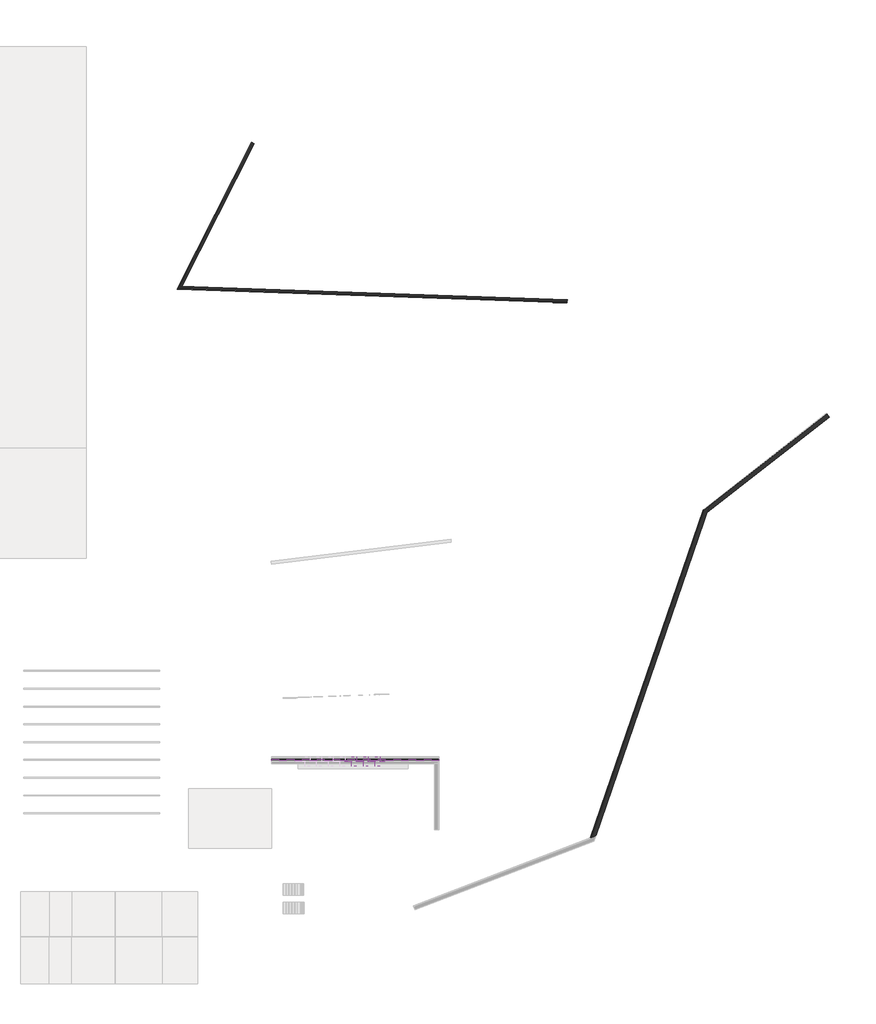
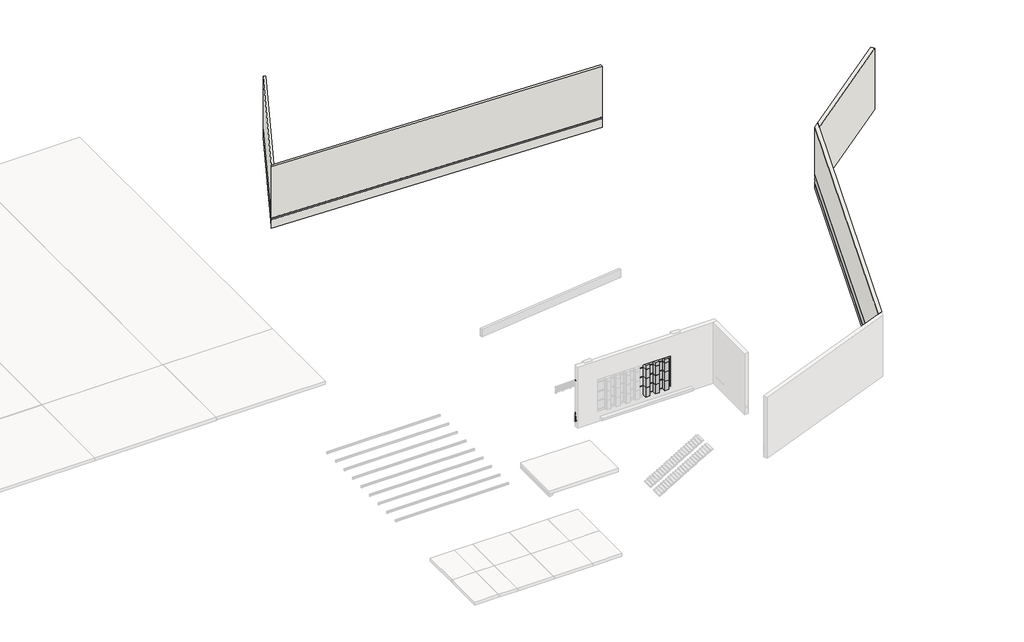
# One storey, part 2 of 3: 35 members, 12 plates, 5 proxies, 4 walls.
"""IFC4 building model written with IfcOpenShell, lengths in millimetres."""

from ifc_helpers import new_model, si_unit, frame, origin, place, context, project, spatial, polyline, circle_curve, ellipse_curve, outline, extrude, transform, mapped, element, save
from ifc_brep_helpers import plane_surface, cylinder_surface, revolved_surface, advanced_brep
from components import member_019d2a25, member_3923b022, member_2a5ef969, member_fb87e798, member_45079aa6, member_bad90bd3, member_1564d5d8, member_734f76e6, plate_2f013cb5, plate_5b721687, plate_4c5048e9, plate_a3cc9f68, plate_1d454050, plate_08f496c8

model = new_model("IFC4")

# Units and contexts
model_context = context("Model", 3, world=origin())
ifc_project = project(units=[si_unit("LENGTHUNIT", "METRE", prefix="MILLI")], contexts=[model_context])

# Site, building, storey
site = spatial("IfcSite", under=ifc_project)
building = spatial("IfcBuilding", under=site)
storey = spatial("IfcBuildingStorey", under=building, Name="Уровень 1", Elevation=0.0)

# Proxies
placement = place(None, origin())
element("IfcBuildingElementProxy", 1, Name="Врезанный профиль", ObjectType="Врезанный профиль", at=placement, inside=storey, context=model_context, shape_type="SweptSolid", body=[
    extrude(outline(polyline([(-22062.5352251, 8542.2601583), (-22062.5352251, 8694.6601583), (-4832.5352251, 8694.6601583), (-4832.5352251, 8542.2601583), (-22062.5352251, 8542.2601583)])), frame((0.0, 0.0, 5900.0), z_axis=(0.0, 0.0, 1.0), x_axis=(1.0, 0.0, 0.0)), (0.0, 0.0, 1.0), 152.4),
])
element("IfcBuildingElementProxy", 2, Name="Reveals", at=placement, inside=storey, context=model_context, shape_type="AdvancedBrep", body=[
    advanced_brep(
    [(-22062.5352251, 8635.4936017, 1673.1169098), (-22062.5352251, 8694.6601583, 1800.0), (-22062.5352251, 8694.6601583, 600.0), (-22062.5352251, 8641.4373413, 751.8422279), (-22062.5352251, 8670.6636925, 959.7985223), (-22062.5352251, 8631.6103411, 1200.0), (-22062.5352251, 8669.0747224, 1466.5729246), (-4891.7017818, 8635.4936017, 1673.1169098), (-4858.120661, 8669.0747224, 1466.5729246), (-4895.5850423, 8631.6103411, 1200.0), (-4856.5316909, 8670.6636925, 959.7985223), (-4885.7580421, 8641.4373413, 751.8422279), (-4832.5352251, 8694.6601583, 600.0), (-4832.5352251, 8694.6601583, 1800.0)],
    [
        (0, 1),
        (1, 2),
        (2, 3, circle_curve(frame((-22062.5352251, 8783.5560861, 716.4080451), z_axis=(-1.0, 0.0, 0.0), x_axis=(0.0, 1.0, 0.0)), 146.4695154)),
        (3, 4),
        (4, 5),
        (5, 6),
        (6, 0),
        (7, 8),
        (8, 9),
        (9, 10),
        (10, 11),
        (11, 12, ellipse_curve(frame((-4743.6392974, 8783.5560861, 716.4080451), z_axis=(0.7071067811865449, -0.7071067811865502, 0.0), x_axis=(-0.70710678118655, -0.707106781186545, 0.0)), 207.1391751, 146.4695154)),
        (12, 13),
        (13, 7),
        (0, 7),
        (13, 1),
        (12, 2),
        (11, 3),
        (10, 4),
        (9, 5),
        (8, 6),
    ],
    [
        plane_surface(frame((-22062.5352251, 8694.6601583, 600.0), z_axis=(-1.0, 0.0, 0.0), x_axis=(0.0, 1.0, 0.0))),
        plane_surface(frame((-4832.5352251, 8694.6601583, 1504.8), z_axis=(0.7071067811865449, -0.7071067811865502, 0.0), x_axis=(-0.7071067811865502, -0.7071067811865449, 0.0))),
        plane_surface(frame((-22062.5352251, 8635.4936017, 1673.1169098), z_axis=(0.0, -0.9063077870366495, 0.42261826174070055), x_axis=(1.0, 0.0, 0.0))),
        plane_surface(frame((-22062.5352251, 8694.6601583, 1800.0), z_axis=(0.0, 1.0, 0.0), x_axis=(1.0, 0.0, 0.0))),
        cylinder_surface(frame((-22062.5352251, 8783.5560861, 716.4080451), z_axis=(-1.0, 0.0, 0.0), x_axis=(0.0, 1.0, 0.0)), 146.4695154),
        plane_surface(frame((-22062.5352251, 8641.4373413, 751.8422279), z_axis=(0.0, -0.9902680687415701, 0.13917310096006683), x_axis=(1.0, 0.0, 0.0))),
        plane_surface(frame((-22062.5352251, 8670.6636925, 959.7985223), z_axis=(0.0, -0.9870393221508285, -0.16047858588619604), x_axis=(1.0, 0.0, 0.0))),
        plane_surface(frame((-22062.5352251, 8631.6103411, 1200.0), z_axis=(0.0, -0.9902680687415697, 0.13917310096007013), x_axis=(1.0, 0.0, 0.0))),
        plane_surface(frame((-22062.5352251, 8669.0747224, 1466.5729246), z_axis=(0.0, -0.987039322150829, -0.16047858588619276), x_axis=(1.0, 0.0, 0.0))),
    ],
    [
        (0, [[1, 2, 3, 4, 5, 6, 7]]),
        (1, [[8, 9, 10, 11, 12, 13, 14]]),
        (2, [[-1, 15, -14, 16]]),
        (3, [[-2, -16, -13, 17]]),
        (4, [[-3, -17, -12, 18]]),
        (5, [[-4, -18, -11, 19]]),
        (6, [[-5, -19, -10, 20]]),
        (7, [[-6, -20, -9, 21]]),
        (8, [[-7, -21, -8, -15]]),
    ],
),
])
element("IfcBuildingElementProxy", 3, Name="Reveals", at=placement, inside=storey, context=model_context, shape_type="AdvancedBrep", body=[
    advanced_brep(
    [(10784.2530434, 584.4953374, 1673.1169098), (10737.2923313, 629.8447699, 1800.0), (10737.2923313, 629.8447699, 600.0), (10779.5354755, 589.0510397, 751.8422279), (10756.3384139, 611.4521818, 959.7985223), (10787.3352015, 581.518932, 1200.0), (10757.5995852, 610.2342828, 1466.5729246), (22397.5758724, 34312.0338235, 1673.1169098), (22369.0627844, 34332.3720116, 1466.5729246), (22400.8730748, 34309.6819519, 1200.0), (22367.7136203, 34333.334361, 959.7985223), (22392.5291567, 34315.6336109, 751.8422279), (22347.3386796, 34347.8676649, 600.0), (22347.3386796, 34347.8676649, 1800.0)],
    [
        (0, 1),
        (1, 2),
        (2, 3, ellipse_curve(frame((10666.7353088, 697.9808946, 716.4080451), z_axis=(-0.6946583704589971, -0.7193398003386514, 0.0), x_axis=(0.7193398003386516, -0.6946583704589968, 0.0)), 161.611229, 146.4695154)),
        (3, 4),
        (4, 5),
        (5, 6),
        (6, 0),
        (7, 8),
        (8, 9),
        (9, 10),
        (10, 11),
        (11, 12, ellipse_curve(frame((22271.8588457, 34401.7069072, 716.4080451), z_axis=(0.5807029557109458, 0.8141155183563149, 0.0), x_axis=(0.8141155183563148, -0.5807029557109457, 0.0)), 152.7602218, 146.4695154)),
        (12, 13),
        (13, 7),
        (0, 7),
        (13, 1),
        (12, 2),
        (11, 3),
        (10, 4),
        (9, 5),
        (8, 6),
    ],
    [
        plane_surface(frame((10737.2923313, 629.8447699, 895.2), z_axis=(-0.6946583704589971, -0.7193398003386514, 0.0), x_axis=(-0.7193398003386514, 0.6946583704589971, 0.0))),
        plane_surface(frame((22347.3386796, 34347.8676649, 1504.8), z_axis=(0.5807029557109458, 0.8141155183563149, 0.0), x_axis=(0.8141155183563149, -0.5807029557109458, 0.0))),
        plane_surface(frame((10784.2530434, 584.4953374, 1673.1169098), z_axis=(0.8569308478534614, -0.29506495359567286, 0.42261826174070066), x_axis=(0.32556815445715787, 0.9455185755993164, 0.0))),
        plane_surface(frame((10737.2923313, 629.8447699, 1800.0), z_axis=(-0.9455185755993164, 0.32556815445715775, 0.0), x_axis=(0.32556815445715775, 0.9455185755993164, 0.0))),
        cylinder_surface(frame((10653.2395803, 658.7864531, 716.4080451), z_axis=(-0.3255681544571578, -0.9455185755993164, 0.0), x_axis=(-0.9455185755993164, 0.3255681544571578, 0.0)), 146.4695154),
        plane_surface(frame((10779.5354755, 589.0510397, 751.8422279), z_axis=(0.9363168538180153, -0.3223997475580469, 0.1391731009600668), x_axis=(0.3255681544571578, 0.9455185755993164, 0.0))),
        plane_surface(frame((10756.3384139, 611.4521818, 959.7985223), z_axis=(0.9332640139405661, -0.3213485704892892, -0.16047858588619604), x_axis=(0.32556815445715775, 0.9455185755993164, 0.0))),
        plane_surface(frame((10787.3352015, 581.518932, 1200.0), z_axis=(0.9363168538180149, -0.3223997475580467, 0.13917310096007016), x_axis=(0.32556815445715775, 0.9455185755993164, 0.0))),
        plane_surface(frame((10757.5995852, 610.2342828, 1466.5729246), z_axis=(0.9332640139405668, -0.3213485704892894, -0.16047858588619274), x_axis=(0.32556815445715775, 0.9455185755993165, 0.0))),
    ],
    [
        (0, [[1, 2, 3, 4, 5, 6, 7]]),
        (1, [[8, 9, 10, 11, 12, 13, 14]]),
        (2, [[-1, 15, -14, 16]]),
        (3, [[-2, -16, -13, 17]]),
        (4, [[-3, -17, -12, 18]]),
        (5, [[-4, -18, -11, 19]]),
        (6, [[-5, -19, -10, 20]]),
        (7, [[-6, -20, -9, 21]]),
        (8, [[-7, -21, -8, -15]]),
    ],
),
])
element("IfcBuildingElementProxy", 4, Name="Reveals", at=placement, inside=storey, context=model_context, shape_type="AdvancedBrep", body=[
    advanced_brep(
    [(8334.5309053, 55605.4786116, 1080.0), (8334.5309053, 55605.4786116, 1300.0), (-31782.3330305, 57006.3903699, 1080.0), (-31782.3330305, 57006.3903699, 1300.0)],
    [
        (0, 1, circle_curve(frame((8334.5309053, 55605.4786116, 1190.0), z_axis=(0.9993908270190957, -0.03489949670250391, 0.0), x_axis=(0.03489949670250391, 0.9993908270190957, 0.0)), 110.0)),
        (1, 0),
        (2, 3),
        (3, 2, ellipse_curve(frame((-31782.3330305, 57006.3903699, 1190.0), z_axis=(-0.5075383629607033, 0.8616291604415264, 0.0), x_axis=(0.8616291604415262, 0.5075383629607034, 0.0)), 204.7274896, 110.0)),
        (0, 2),
        (3, 1),
    ],
    [
        plane_surface(frame((8334.5309053, 55605.4786116, 1320.0), z_axis=(0.9993908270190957, -0.03489949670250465, 0.0), x_axis=(0.03489949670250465, 0.9993908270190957, 0.0))),
        plane_surface(frame((-31782.3330305, 57006.3903699, 1504.8), z_axis=(-0.5075383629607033, 0.8616291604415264, 0.0), x_axis=(0.8616291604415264, 0.5075383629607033, 0.0))),
        cylinder_surface(frame((8334.5309053, 55605.4786116, 1190.0), z_axis=(0.9993908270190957, -0.03489949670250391, 0.0), x_axis=(0.03489949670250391, 0.9993908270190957, 0.0)), 110.0),
        plane_surface(frame((8334.5309053, 55605.4786116, 1300.0), z_axis=(-0.034899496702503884, -0.9993908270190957, 0.0), x_axis=(-0.9993908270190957, 0.034899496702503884, 0.0))),
    ],
    [
        (0, [[1, 2]]),
        (1, [[3, 4]]),
        (2, [[-1, 5, -4, 6]]),
        (3, [[-2, -6, -3, -5]]),
    ],
),
])
element("IfcBuildingElementProxy", 5, Name="Reveals", at=placement, inside=storey, context=model_context, shape_type="AdvancedBrep", body=[
    advanced_brep(
    [(-31782.3330305, 57006.3903699, 1080.0), (-31782.3330305, 57006.3903699, 1300.0), (-24093.7983339, 72095.9893373, 1080.0), (-24093.7983339, 72095.9893373, 1300.0)],
    [
        (0, 1, ellipse_curve(frame((-31782.3330305, 57006.3903699, 1190.0), z_axis=(0.5075383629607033, -0.8616291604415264, 0.0), x_axis=(-0.8616291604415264, -0.5075383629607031, 0.0)), 204.7274896, 110.0)),
        (1, 0),
        (2, 3),
        (3, 2, circle_curve(frame((-24093.7983339, 72095.9893373, 1190.0), z_axis=(0.4539904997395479, 0.8910065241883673, 0.0), x_axis=(0.8910065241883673, -0.4539904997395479, 0.0)), 110.0)),
        (0, 2),
        (3, 1),
    ],
    [
        plane_surface(frame((-31782.3330305, 57006.3903699, 1504.8), z_axis=(0.5075383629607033, -0.8616291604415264, 0.0), x_axis=(0.8616291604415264, 0.5075383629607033, 0.0))),
        plane_surface(frame((-24093.7983339, 72095.9893373, 1320.0), z_axis=(0.4539904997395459, 0.8910065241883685, 0.0), x_axis=(0.8910065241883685, -0.4539904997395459, 0.0))),
        cylinder_surface(frame((-31782.3330305, 57006.3903699, 1190.0), z_axis=(-0.4539904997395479, -0.8910065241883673, 0.0), x_axis=(0.8910065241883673, -0.4539904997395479, 0.0)), 110.0),
        plane_surface(frame((-31782.3330305, 57006.3903699, 1300.0), z_axis=(-0.8910065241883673, 0.4539904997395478, 0.0), x_axis=(0.4539904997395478, 0.8910065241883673, 0.0))),
    ],
    [
        (0, [[1, 2]]),
        (1, [[3, 4]]),
        (2, [[-1, 5, -4, 6]]),
        (3, [[-2, -6, -3, -5]]),
    ],
),
])

# Members
member_shape = member_019d2a25(model_context)
element("IfcMember", 6, ObjectType="Прямоугольный импост : 50 мм x 65 мм", at=placement, inside=storey, context=model_context, shape_type="MappedRepresentation", body=[
    mapped(member_shape, transform((-10462.5352251, 8464.6601583, 1341.6457957), x_axis=(1.0, 0.0, 0.0), y_axis=(0.0, -1.0, 0.0), z_axis=(0.0, 0.0, -1.0))),
])
element("IfcMember", 7, ObjectType="Прямоугольный импост : 50 мм x 65 мм", at=placement, inside=storey, context=model_context, shape_type="MappedRepresentation", body=[
    mapped(member_shape, transform((-10462.5352251, 8464.6601583, 2541.6457957), x_axis=(1.0, 0.0, 0.0), y_axis=(0.0, -1.0, 0.0), z_axis=(0.0, 0.0, -1.0))),
])
element("IfcMember", 8, ObjectType="Прямоугольный импост : 50 мм x 65 мм", at=placement, inside=storey, context=model_context, shape_type="MappedRepresentation", body=[
    mapped(member_shape, transform((-10462.5352251, 8464.6601583, 3741.6457957), x_axis=(1.0, 0.0, 0.0), y_axis=(0.0, -1.0, 0.0), z_axis=(0.0, 0.0, -1.0))),
])
member_2_shape = member_3923b022(model_context)
element("IfcMember", 9, ObjectType="Прямоугольный импост : 50 мм x 65 мм", at=placement, inside=storey, context=model_context, shape_type="MappedRepresentation", body=[
    mapped(member_2_shape, transform((-10462.5352251, 8464.6601583, 4941.6457957), x_axis=(1.0, 0.0, 0.0), y_axis=(0.0, -1.0, 0.0), z_axis=(0.0, 0.0, -1.0))),
])
member_3_shape = member_2a5ef969(model_context)
element("IfcMember", 10, ObjectType="Импост круглого сечения : Радиус 25 мм 2", at=placement, inside=storey, context=model_context, shape_type="MappedRepresentation", body=[
    mapped(member_3_shape, transform((-13562.5352248, 8464.6601583, 1341.6457957), x_axis=(1.0, 0.0, 0.0), y_axis=(0.0, -1.0, 0.0), z_axis=(0.0, 0.0, -1.0))),
])
element("IfcMember", 11, ObjectType="Импост круглого сечения : Радиус 25 мм 2", at=placement, inside=storey, context=model_context, shape_type="MappedRepresentation", body=[
    mapped(member_3_shape, transform((-12362.5352248, 8464.6601583, 1341.6457957), x_axis=(1.0, 0.0, 0.0), y_axis=(0.0, -1.0, 0.0), z_axis=(0.0, 0.0, -1.0))),
])
element("IfcMember", 12, ObjectType="Импост круглого сечения : Радиус 25 мм 2", at=placement, inside=storey, context=model_context, shape_type="MappedRepresentation", body=[
    mapped(member_3_shape, transform((-11162.5352248, 8464.6601583, 1341.6457957), x_axis=(1.0, 0.0, 0.0), y_axis=(0.0, -1.0, 0.0), z_axis=(0.0, 0.0, -1.0))),
])
element("IfcMember", 13, ObjectType="Импост круглого сечения : Радиус 25 мм 2", at=placement, inside=storey, context=model_context, shape_type="MappedRepresentation", body=[
    mapped(member_3_shape, transform((-13562.5352248, 8464.6601583, 2541.6457957), x_axis=(1.0, 0.0, 0.0), y_axis=(0.0, -1.0, 0.0), z_axis=(0.0, 0.0, -1.0))),
])
element("IfcMember", 14, ObjectType="Импост круглого сечения : Радиус 25 мм 2", at=placement, inside=storey, context=model_context, shape_type="MappedRepresentation", body=[
    mapped(member_3_shape, transform((-12362.5352248, 8464.6601583, 2541.6457957), x_axis=(1.0, 0.0, 0.0), y_axis=(0.0, -1.0, 0.0), z_axis=(0.0, 0.0, -1.0))),
])
element("IfcMember", 15, ObjectType="Импост круглого сечения : Радиус 25 мм 2", at=placement, inside=storey, context=model_context, shape_type="MappedRepresentation", body=[
    mapped(member_3_shape, transform((-11162.5352248, 8464.6601583, 2541.6457957), x_axis=(1.0, 0.0, 0.0), y_axis=(0.0, -1.0, 0.0), z_axis=(0.0, 0.0, -1.0))),
])
element("IfcMember", 16, ObjectType="Импост круглого сечения : Радиус 25 мм 2", at=placement, inside=storey, context=model_context, shape_type="MappedRepresentation", body=[
    mapped(member_3_shape, transform((-13562.5352248, 8464.6601583, 3741.6457957), x_axis=(1.0, 0.0, 0.0), y_axis=(0.0, -1.0, 0.0), z_axis=(0.0, 0.0, -1.0))),
])
element("IfcMember", 17, ObjectType="Импост круглого сечения : Радиус 25 мм 2", at=placement, inside=storey, context=model_context, shape_type="MappedRepresentation", body=[
    mapped(member_3_shape, transform((-12362.5352248, 8464.6601583, 3741.6457957), x_axis=(1.0, 0.0, 0.0), y_axis=(0.0, -1.0, 0.0), z_axis=(0.0, 0.0, -1.0))),
])
element("IfcMember", 18, ObjectType="Импост круглого сечения : Радиус 25 мм 2", at=placement, inside=storey, context=model_context, shape_type="MappedRepresentation", body=[
    mapped(member_3_shape, transform((-11162.5352248, 8464.6601583, 3741.6457957), x_axis=(1.0, 0.0, 0.0), y_axis=(0.0, -1.0, 0.0), z_axis=(0.0, 0.0, -1.0))),
])
member_4_shape = member_fb87e798(model_context)
element("IfcMember", 19, ObjectType="Импост круглого сечения : Радиус 25 мм 2", at=placement, inside=storey, context=model_context, shape_type="MappedRepresentation", body=[
    mapped(member_4_shape, transform((-13562.5352248, 8464.6601583, 4941.6457957), x_axis=(1.0, 0.0, 0.0), y_axis=(0.0, -1.0, 0.0), z_axis=(0.0, 0.0, -1.0))),
])
element("IfcMember", 20, ObjectType="Импост круглого сечения : Радиус 25 мм 2", at=placement, inside=storey, context=model_context, shape_type="MappedRepresentation", body=[
    mapped(member_4_shape, transform((-12362.5352248, 8464.6601583, 4941.6457957), x_axis=(1.0, 0.0, 0.0), y_axis=(0.0, -1.0, 0.0), z_axis=(0.0, 0.0, -1.0))),
])
element("IfcMember", 21, ObjectType="Импост круглого сечения : Радиус 25 мм 2", at=placement, inside=storey, context=model_context, shape_type="MappedRepresentation", body=[
    mapped(member_4_shape, transform((-11162.5352248, 8464.6601583, 4941.6457957), x_axis=(1.0, 0.0, 0.0), y_axis=(0.0, -1.0, 0.0), z_axis=(0.0, 0.0, -1.0))),
])
member_5_shape = member_45079aa6(model_context)
element("IfcMember", 22, ObjectType="Импост круглого сечения : Радиус 25 мм", at=placement, inside=storey, context=model_context, shape_type="MappedRepresentation", body=[
    mapped(member_5_shape, transform((-10512.5352251, 8464.6601583, 5429.8819034), x_axis=(0.0, 0.0, 1.0), y_axis=(0.0, -1.0, 0.0), z_axis=(1.0, 0.0, 0.0))),
])
member_6_shape = member_bad90bd3(model_context)
element("IfcMember", 23, ObjectType="Импост круглого сечения : Радиус 25 мм", at=placement, inside=storey, context=model_context, shape_type="MappedRepresentation", body=[
    mapped(member_6_shape, transform((-13812.5352248, 8464.6601583, 5429.8819034), x_axis=(0.0, 0.0, 1.0), y_axis=(0.0, -1.0, 0.0), z_axis=(1.0, 0.0, 0.0))),
])
element("IfcMember", 24, ObjectType="Импост круглого сечения : Радиус 25 мм", at=placement, inside=storey, context=model_context, shape_type="MappedRepresentation", body=[
    mapped(member_6_shape, transform((-12612.5352248, 8464.6601583, 5429.8819034), x_axis=(0.0, 0.0, 1.0), y_axis=(0.0, -1.0, 0.0), z_axis=(1.0, 0.0, 0.0))),
])
element("IfcMember", 25, ObjectType="Импост круглого сечения : Радиус 25 мм", at=placement, inside=storey, context=model_context, shape_type="MappedRepresentation", body=[
    mapped(member_6_shape, transform((-11412.5352248, 8464.6601583, 5429.8819034), x_axis=(0.0, 0.0, 1.0), y_axis=(0.0, -1.0, 0.0), z_axis=(1.0, 0.0, 0.0))),
])
element("IfcMember", 26, ObjectType="Импост круглого сечения : Радиус 25 мм", at=placement, inside=storey, context=model_context, shape_type="MappedRepresentation", body=[
    mapped(member_6_shape, transform((-13312.5352248, 8464.6601583, 1341.6457957), x_axis=(0.0, 0.0, -1.0), y_axis=(0.0, -1.0, 0.0), z_axis=(-1.0, 0.0, 0.0))),
])
element("IfcMember", 27, ObjectType="Импост круглого сечения : Радиус 25 мм", at=placement, inside=storey, context=model_context, shape_type="MappedRepresentation", body=[
    mapped(member_6_shape, transform((-12112.5352248, 8464.6601583, 1341.6457957), x_axis=(0.0, 0.0, -1.0), y_axis=(0.0, -1.0, 0.0), z_axis=(-1.0, 0.0, 0.0))),
])
element("IfcMember", 28, ObjectType="Импост круглого сечения : Радиус 25 мм", at=placement, inside=storey, context=model_context, shape_type="MappedRepresentation", body=[
    mapped(member_5_shape, transform((-10912.5352248, 8464.6601583, 1341.6457957), x_axis=(0.0, 0.0, -1.0), y_axis=(0.0, -1.0, 0.0), z_axis=(-1.0, 0.0, 0.0))),
])
member_7_shape = member_1564d5d8(model_context)
element("IfcMember", 29, ObjectType="Прямоугольный импост : 50 мм x 65 мм", at=placement, inside=storey, context=model_context, shape_type="MappedRepresentation", body=[
    mapped(member_7_shape, transform((-13812.5352248, 8464.6601583, 2541.6457957), x_axis=(0.0, 0.0, 1.0), y_axis=(0.0, -1.0, 0.0), z_axis=(1.0, 0.0, 0.0))),
])
element("IfcMember", 30, ObjectType="Прямоугольный импост : 50 мм x 65 мм", at=placement, inside=storey, context=model_context, shape_type="MappedRepresentation", body=[
    mapped(member_7_shape, transform((-12612.5352248, 8464.6601583, 2541.6457957), x_axis=(0.0, 0.0, 1.0), y_axis=(0.0, -1.0, 0.0), z_axis=(1.0, 0.0, 0.0))),
])
element("IfcMember", 31, ObjectType="Прямоугольный импост : 50 мм x 65 мм", at=placement, inside=storey, context=model_context, shape_type="MappedRepresentation", body=[
    mapped(member_7_shape, transform((-11412.5352248, 8464.6601583, 2541.6457957), x_axis=(0.0, 0.0, 1.0), y_axis=(0.0, -1.0, 0.0), z_axis=(1.0, 0.0, 0.0))),
])
element("IfcMember", 32, ObjectType="Прямоугольный импост : 50 мм x 65 мм", at=placement, inside=storey, context=model_context, shape_type="MappedRepresentation", body=[
    mapped(member_7_shape, transform((-13812.5352248, 8464.6601583, 3741.6457957), x_axis=(0.0, 0.0, 1.0), y_axis=(0.0, -1.0, 0.0), z_axis=(1.0, 0.0, 0.0))),
])
element("IfcMember", 33, ObjectType="Прямоугольный импост : 50 мм x 65 мм", at=placement, inside=storey, context=model_context, shape_type="MappedRepresentation", body=[
    mapped(member_7_shape, transform((-12612.5352248, 8464.6601583, 3741.6457957), x_axis=(0.0, 0.0, 1.0), y_axis=(0.0, -1.0, 0.0), z_axis=(1.0, 0.0, 0.0))),
])
element("IfcMember", 34, ObjectType="Прямоугольный импост : 50 мм x 65 мм", at=placement, inside=storey, context=model_context, shape_type="MappedRepresentation", body=[
    mapped(member_7_shape, transform((-11412.5352248, 8464.6601583, 3741.6457957), x_axis=(0.0, 0.0, 1.0), y_axis=(0.0, -1.0, 0.0), z_axis=(1.0, 0.0, 0.0))),
])
element("IfcMember", 35, ObjectType="Прямоугольный импост : 50 мм x 65 мм", at=placement, inside=storey, context=model_context, shape_type="MappedRepresentation", body=[
    mapped(member_7_shape, transform((-13812.5352248, 8464.6601583, 4941.6457957), x_axis=(0.0, 0.0, 1.0), y_axis=(0.0, -1.0, 0.0), z_axis=(1.0, 0.0, 0.0))),
])
element("IfcMember", 36, ObjectType="Прямоугольный импост : 50 мм x 65 мм", at=placement, inside=storey, context=model_context, shape_type="MappedRepresentation", body=[
    mapped(member_7_shape, transform((-12612.5352248, 8464.6601583, 4941.6457957), x_axis=(0.0, 0.0, 1.0), y_axis=(0.0, -1.0, 0.0), z_axis=(1.0, 0.0, 0.0))),
])
element("IfcMember", 37, ObjectType="Прямоугольный импост : 50 мм x 65 мм", at=placement, inside=storey, context=model_context, shape_type="MappedRepresentation", body=[
    mapped(member_7_shape, transform((-11412.5352248, 8464.6601583, 4941.6457957), x_axis=(0.0, 0.0, 1.0), y_axis=(0.0, -1.0, 0.0), z_axis=(1.0, 0.0, 0.0))),
])
member_8_shape = member_734f76e6(model_context)
element("IfcMember", 38, ObjectType="Прямоугольный импост : 50 мм x 65 мм", at=placement, inside=storey, context=model_context, shape_type="MappedRepresentation", body=[
    mapped(member_8_shape, transform((-10512.5352251, 8464.6601583, 2541.6457957), x_axis=(0.0, 0.0, 1.0), y_axis=(0.0, -1.0, 0.0), z_axis=(1.0, 0.0, 0.0))),
])
element("IfcMember", 39, ObjectType="Прямоугольный импост : 50 мм x 65 мм", at=placement, inside=storey, context=model_context, shape_type="MappedRepresentation", body=[
    mapped(member_8_shape, transform((-10512.5352251, 8464.6601583, 3741.6457957), x_axis=(0.0, 0.0, 1.0), y_axis=(0.0, -1.0, 0.0), z_axis=(1.0, 0.0, 0.0))),
])
element("IfcMember", 40, ObjectType="Прямоугольный импост : 50 мм x 65 мм", at=placement, inside=storey, context=model_context, shape_type="MappedRepresentation", body=[
    mapped(member_8_shape, transform((-10512.5352251, 8464.6601583, 4941.6457957), x_axis=(0.0, 0.0, 1.0), y_axis=(0.0, -1.0, 0.0), z_axis=(1.0, 0.0, 0.0))),
])

# Plates
plate_shape = plate_2f013cb5(model_context)
element("IfcPlate", 41, ObjectType="Системная панель : С остеклением", at=placement, inside=storey, context=model_context, shape_type="MappedRepresentation", body=[
    mapped(plate_shape, transform((-12962.5352248, 8464.6601583, 1341.6457957), x_axis=(1.0, 0.0, 0.0), y_axis=(0.0, 1.0, 0.0), z_axis=(0.0, 0.0, 1.0))),
])
element("IfcPlate", 42, ObjectType="Системная панель : С остеклением", at=placement, inside=storey, context=model_context, shape_type="MappedRepresentation", body=[
    mapped(plate_shape, transform((-11762.5352248, 8464.6601583, 1341.6457957), x_axis=(1.0, 0.0, 0.0), y_axis=(0.0, 1.0, 0.0), z_axis=(0.0, 0.0, 1.0))),
])
plate_2_shape = plate_5b721687(model_context)
element("IfcPlate", 43, ObjectType="Системная панель : С остеклением", at=placement, inside=storey, context=model_context, shape_type="MappedRepresentation", body=[
    mapped(plate_2_shape, transform((-10712.535225, 8464.6601583, 1341.6457957), x_axis=(1.0, 0.0, 0.0), y_axis=(0.0, 1.0, 0.0), z_axis=(0.0, 0.0, 1.0))),
])
plate_3_shape = plate_4c5048e9(model_context)
element("IfcPlate", 44, ObjectType="Системная панель : С остеклением", at=placement, inside=storey, context=model_context, shape_type="MappedRepresentation", body=[
    mapped(plate_3_shape, transform((-12962.5352248, 8464.6601583, 2566.6457957), x_axis=(1.0, 0.0, 0.0), y_axis=(0.0, 1.0, 0.0), z_axis=(0.0, 0.0, 1.0))),
])
element("IfcPlate", 45, ObjectType="Системная панель : С остеклением", at=placement, inside=storey, context=model_context, shape_type="MappedRepresentation", body=[
    mapped(plate_3_shape, transform((-11762.5352248, 8464.6601583, 2566.6457957), x_axis=(1.0, 0.0, 0.0), y_axis=(0.0, 1.0, 0.0), z_axis=(0.0, 0.0, 1.0))),
])
element("IfcPlate", 46, ObjectType="Системная панель : С остеклением", at=placement, inside=storey, context=model_context, shape_type="MappedRepresentation", body=[
    mapped(plate_3_shape, transform((-12962.5352248, 8464.6601583, 3766.6457957), x_axis=(1.0, 0.0, 0.0), y_axis=(0.0, 1.0, 0.0), z_axis=(0.0, 0.0, 1.0))),
])
element("IfcPlate", 47, ObjectType="Системная панель : С остеклением", at=placement, inside=storey, context=model_context, shape_type="MappedRepresentation", body=[
    mapped(plate_3_shape, transform((-11762.5352248, 8464.6601583, 3766.6457957), x_axis=(1.0, 0.0, 0.0), y_axis=(0.0, 1.0, 0.0), z_axis=(0.0, 0.0, 1.0))),
])
plate_4_shape = plate_a3cc9f68(model_context)
element("IfcPlate", 48, ObjectType="Системная панель : С остеклением", at=placement, inside=storey, context=model_context, shape_type="MappedRepresentation", body=[
    mapped(plate_4_shape, transform((-10712.535225, 8464.6601583, 2566.6457957), x_axis=(1.0, 0.0, 0.0), y_axis=(0.0, 1.0, 0.0), z_axis=(0.0, 0.0, 1.0))),
])
element("IfcPlate", 49, ObjectType="Системная панель : С остеклением", at=placement, inside=storey, context=model_context, shape_type="MappedRepresentation", body=[
    mapped(plate_4_shape, transform((-10712.535225, 8464.6601583, 3766.6457957), x_axis=(1.0, 0.0, 0.0), y_axis=(0.0, 1.0, 0.0), z_axis=(0.0, 0.0, 1.0))),
])
plate_5_shape = plate_1d454050(model_context)
element("IfcPlate", 50, ObjectType="Системная панель : С остеклением", at=placement, inside=storey, context=model_context, shape_type="MappedRepresentation", body=[
    mapped(plate_5_shape, transform((-12962.5352248, 8464.6601583, 4966.6457957), x_axis=(1.0, 0.0, 0.0), y_axis=(0.0, 1.0, 0.0), z_axis=(0.0, 0.0, 1.0))),
])
element("IfcPlate", 51, ObjectType="Системная панель : С остеклением", at=placement, inside=storey, context=model_context, shape_type="MappedRepresentation", body=[
    mapped(plate_5_shape, transform((-11762.5352248, 8464.6601583, 4966.6457957), x_axis=(1.0, 0.0, 0.0), y_axis=(0.0, 1.0, 0.0), z_axis=(0.0, 0.0, 1.0))),
])
plate_6_shape = plate_08f496c8(model_context)
element("IfcPlate", 52, ObjectType="Системная панель : С остеклением", at=placement, inside=storey, context=model_context, shape_type="MappedRepresentation", body=[
    mapped(plate_6_shape, transform((-10712.535225, 8464.6601583, 4966.6457957), x_axis=(1.0, 0.0, 0.0), y_axis=(0.0, 1.0, 0.0), z_axis=(0.0, 0.0, 1.0))),
])

# Walls
element("IfcWall", 53, ObjectType="Наружный - Блок на металлической обрешетке", at=placement, inside=storey, context=model_context, shape_type="AdvancedBrep", body=[
    advanced_brep(
    [(11297.8955705, 845.0401914, 0.0), (22737.9158912, 34069.2716474, 0.0), (23012.8894818, 34867.8529404, 0.0), (23012.8894818, 34867.8529404, 600.0), (22981.0745489, 34775.4556664, 751.8422279), (22998.5451462, 34826.1939649, 959.7985223), (22975.2002761, 34758.3955392, 1200.0), (22997.5953097, 34823.4354394, 1466.5729246), (22977.5215676, 34765.1370593, 1673.1169098), (23012.8894818, 34867.8529404, 1800.0), (23012.8894818, 34867.8529404, 8000.0), (22737.9158912, 34069.2716474, 8000.0), (11297.8955705, 845.0401914, 8000.0), (22347.3386796, 34347.8676649, 0.0), (10737.2923313, 629.8447699, 0.0), (10737.2923313, 629.8447699, 600.0), (22347.3386796, 34347.8676649, 600.0), (10737.2923313, 629.8447699, 8000.0), (22347.3386796, 34347.8676649, 8000.0), (22347.3386796, 34347.8676649, 1800.0), (10737.2923313, 629.8447699, 1800.0), (22397.5758724, 34312.0338235, 1673.1169098), (10809.3987733, 657.5238397, 1673.1169098), (22392.5291567, 34315.6336109, 751.8422279), (10802.1551218, 654.7432624, 751.8422279), (22367.7136203, 34333.334361, 959.7985223), (10766.5368889, 641.0707038, 959.7985223), (22400.8730748, 34309.6819519, 1200.0), (10814.1313134, 659.3404917, 1200.0), (22369.0627844, 34332.3720116, 1466.5729246), (10768.4733709, 641.8140496, 1466.5729246)],
    [
        (0, 1),
        (1, 2),
        (2, 3),
        (3, 4, ellipse_curve(frame((23066.0286827, 35022.1803859, 716.4080451), z_axis=(-0.9455185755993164, 0.3255681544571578, 0.0), x_axis=(-0.3255681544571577, -0.9455185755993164, 0.0)), 268.929522, 146.4695154)),
        (4, 5),
        (5, 6),
        (6, 7),
        (7, 8),
        (8, 9),
        (9, 10),
        (10, 11),
        (11, 12),
        (12, 0),
        (13, 14),
        (14, 15),
        (15, 16),
        (16, 13),
        (17, 18),
        (18, 19),
        (19, 20),
        (20, 17),
        (0, 14),
        (13, 2),
        (10, 18),
        (17, 12),
        (19, 21),
        (21, 22),
        (22, 20),
        (23, 16, ellipse_curve(frame((22271.8588457, 34401.7069072, 716.4080451), z_axis=(0.5807029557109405, 0.8141155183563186, 0.0), x_axis=(0.8141155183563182, -0.5807029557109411, 0.0)), 152.7602218, 146.4695154)),
        (15, 24, ellipse_curve(frame((10628.9546247, 588.2578207, 716.4080451), z_axis=(0.3583679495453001, -0.9335804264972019, 0.0), x_axis=(-0.933580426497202, -0.35836794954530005, 0.0)), 191.202373, 146.4695154)),
        (24, 23),
        (25, 23),
        (24, 26),
        (26, 25),
        (27, 25),
        (26, 28),
        (28, 27),
        (29, 27),
        (28, 30),
        (30, 29),
        (21, 29),
        (30, 22),
        (16, 3),
        (9, 19),
        (8, 21),
        (23, 4),
        (25, 5),
        (27, 6),
        (29, 7),
    ],
    [
        plane_surface(frame((11137.3134436, 378.6758318, 0.0), z_axis=(0.9455185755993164, -0.3255681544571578, 0.0), x_axis=(0.3255681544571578, 0.9455185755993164, 0.0))),
        plane_surface(frame((10702.3748989, 528.4371828, 0.0), z_axis=(-0.9455185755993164, 0.3255681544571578, 0.0), x_axis=(-0.3255681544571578, -0.9455185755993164, 0.0))),
        plane_surface(frame((11137.3134436, 378.6758318, 0.0), z_axis=(0.0, 0.0, -1.0000000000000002), x_axis=(-0.9455185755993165, 0.32556815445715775, 0.0))),
        plane_surface(frame((22760.0965578, 34133.6889807, 8000.0), z_axis=(0.0, 0.0, 1.0000000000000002), x_axis=(-0.9455185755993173, 0.3255681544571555, 0.0))),
        plane_surface(frame((10784.2530434, 584.4953374, 1673.1169098), z_axis=(-0.8569308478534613, 0.2950649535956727, -0.4226182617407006), x_axis=(0.32556815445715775, 0.9455185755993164, 0.0))),
        revolved_surface(polyline([(10450.451831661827, 519.7370183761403, 716.4080451), (22147.494378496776, 34490.41521953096, 716.4080451)]), (10653.2395803, 658.7864531, 716.4080451), (-0.325568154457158, -0.9455185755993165, 0.0)),
        plane_surface(frame((10779.5354755, 589.0510397, 751.8422279), z_axis=(-0.9363168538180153, 0.3223997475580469, -0.1391731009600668), x_axis=(0.3255681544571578, 0.9455185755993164, 0.0))),
        plane_surface(frame((10756.3384139, 611.4521818, 959.7985223), z_axis=(-0.9332640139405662, 0.3213485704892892, 0.1604785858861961), x_axis=(0.32556815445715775, 0.9455185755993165, 0.0))),
        plane_surface(frame((10787.3352015, 581.518932, 1200.0), z_axis=(-0.936316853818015, 0.3223997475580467, -0.1391731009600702), x_axis=(0.32556815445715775, 0.9455185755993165, 0.0))),
        plane_surface(frame((10757.5995852, 610.2342828, 1466.5729246), z_axis=(-0.9332640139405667, 0.32134857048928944, 0.16047858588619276), x_axis=(0.3255681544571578, 0.9455185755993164, 0.0))),
        plane_surface(frame((-7460.7568165, -6355.7318057, 0.0), z_axis=(0.3583679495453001, -0.9335804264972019, 0.0), x_axis=(-0.9335804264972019, -0.3583679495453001, 0.0))),
        plane_surface(frame((22401.025146, 34389.8121295, 0.0), z_axis=(-0.6156614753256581, 0.7880107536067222, 0.0), x_axis=(-0.7880107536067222, -0.6156614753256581, 0.0))),
        plane_surface(frame((22397.5758724, 34312.0338235, 1673.1169098), z_axis=(-0.5579787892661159, 0.7141802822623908, -0.4226182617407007), x_axis=(0.7880107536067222, 0.6156614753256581, 0.0))),
        revolved_surface(polyline([(22147.49437852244, 34490.41521954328, 716.4080451), (23153.583570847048, 35276.458244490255, 716.4080451)]), (22292.6088816, 34417.918612, 716.4080451), (-0.7880107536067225, -0.6156614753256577, 0.0)),
        plane_surface(frame((22392.5291567, 34315.6336109, 751.8422279), z_axis=(-0.6096699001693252, 0.7803418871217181, -0.13917310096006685), x_axis=(0.7880107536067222, 0.6156614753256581, 0.0))),
        plane_surface(frame((22367.7136203, 34333.334361, 959.7985223), z_axis=(-0.6076820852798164, 0.7777976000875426, 0.16047858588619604), x_axis=(0.7880107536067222, 0.6156614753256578, 0.0))),
        plane_surface(frame((22400.8730748, 34309.6819519, 1200.0), z_axis=(-0.6096699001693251, 0.7803418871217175, -0.13917310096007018), x_axis=(0.788010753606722, 0.6156614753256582, 0.0))),
        plane_surface(frame((22369.0627844, 34332.3720116, 1466.5729246), z_axis=(-0.6076820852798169, 0.777797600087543, 0.16047858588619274), x_axis=(0.7880107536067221, 0.6156614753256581, 0.0))),
    ],
    [
        (0, [[1, 2, 3, 4, 5, 6, 7, 8, 9, 10, 11, 12, 13]]),
        (1, [[14, 15, 16, 17]]),
        (1, [[18, 19, 20, 21]]),
        (2, [[-2, -1, 22, -14, 23]]),
        (3, [[-12, -11, 24, -18, 25]]),
        (4, [[26, 27, 28, -20]]),
        (5, [[29, -16, 30, 31]]),
        (6, [[32, -31, 33, 34]]),
        (7, [[35, -34, 36, 37]]),
        (8, [[38, -37, 39, 40]]),
        (9, [[41, -40, 42, -27]]),
        (10, [[-13, -25, -21, -28, -42, -39, -36, -33, -30, -15, -22]]),
        (11, [[-23, -17, 43, -3]]),
        (11, [[-24, -10, 44, -19]]),
        (12, [[-26, -44, -9, 45]]),
        (13, [[-29, 46, -4, -43]]),
        (14, [[-32, 47, -5, -46]]),
        (15, [[-35, 48, -6, -47]]),
        (16, [[-38, 49, -7, -48]]),
        (17, [[-41, -45, -8, -49]]),
    ],
),
])
element("IfcWall", 54, ObjectType="Наружный - Блок на металлической обрешетке", at=placement, inside=storey, context=model_context, shape_type="AdvancedBrep", body=[
    advanced_brep(
    [(22737.9158912, 34069.2716474, 0.0), (35292.4014824, 43877.9107881, 0.0), (35292.4014824, 43877.9107881, 8000.0), (22737.9158912, 34069.2716474, 8000.0), (35009.1972037, 44240.3957347, 0.0), (23012.8894818, 34867.8529404, 0.0), (23012.8894818, 34867.8529404, 600.0), (35009.1972037, 44240.3957347, 600.0), (23012.8894818, 34867.8529404, 8000.0), (35009.1972037, 44240.3957347, 8000.0), (35009.1972037, 44240.3957347, 1800.0), (23012.8894818, 34867.8529404, 1800.0), (35041.9644418, 44198.4555826, 751.8422279), (35023.9709033, 44221.4862616, 959.7985223), (35048.0145472, 44190.7118008, 1200.0), (35024.9491709, 44220.2341361, 1466.5729246), (35045.6237733, 44193.7718518, 1673.1169098), (22977.5215676, 34765.1370593, 1673.1169098), (22981.0745489, 34775.4556664, 751.8422279), (22998.5451462, 34826.1939649, 959.7985223), (22975.2002761, 34758.3955392, 1200.0), (22997.5953097, 34823.4354394, 1466.5729246)],
    [
        (0, 1),
        (1, 2),
        (2, 3),
        (3, 0),
        (4, 5),
        (5, 6),
        (6, 7),
        (7, 4),
        (8, 9),
        (9, 10),
        (10, 11),
        (11, 8),
        (0, 5),
        (4, 1),
        (7, 12, circle_curve(frame((34954.4674057, 44310.4466817, 716.4080451), z_axis=(-0.7880107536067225, -0.6156614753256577, 0.0), x_axis=(-0.6156614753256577, 0.7880107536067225, 0.0)), 146.4695154)),
        (12, 13),
        (13, 14),
        (14, 15),
        (15, 16),
        (16, 10),
        (9, 2),
        (8, 3),
        (16, 17),
        (17, 11),
        (18, 12),
        (6, 18, ellipse_curve(frame((23066.0286827, 35022.1803859, 716.4080451), z_axis=(-0.9455185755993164, 0.3255681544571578, 0.0), x_axis=(-0.3255681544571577, -0.9455185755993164, 0.0)), 268.929522, 146.4695154)),
        (18, 19),
        (19, 13),
        (19, 20),
        (20, 14),
        (20, 21),
        (21, 15),
        (21, 17),
    ],
    [
        plane_surface(frame((22684.2294247, 34027.3271829, 0.0), z_axis=(0.6156614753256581, -0.7880107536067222, 0.0), x_axis=(0.7880107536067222, 0.6156614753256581, 0.0))),
        plane_surface(frame((22401.025146, 34389.8121295, 0.0), z_axis=(-0.6156614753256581, 0.7880107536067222, 0.0), x_axis=(-0.7880107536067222, -0.6156614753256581, 0.0))),
        plane_surface(frame((22684.2294247, 34027.3271829, 0.0), z_axis=(0.0, 0.0, -1.0000000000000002), x_axis=(-0.6156614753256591, 0.7880107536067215, 0.0))),
        plane_surface(frame((35292.4014824, 43877.9107881, 0.0), z_axis=(0.788010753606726, 0.6156614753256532, 0.0), x_axis=(-0.6156614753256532, 0.788010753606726, 0.0))),
        plane_surface(frame((35292.4014824, 43877.9107881, 8000.0), z_axis=(0.0, 0.0, 1.0000000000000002), x_axis=(-0.615661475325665, 0.7880107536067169, 0.0))),
        plane_surface(frame((22397.5758724, 34312.0338235, 1673.1169098), z_axis=(-0.557978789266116, 0.7141802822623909, -0.4226182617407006), x_axis=(0.7880107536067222, 0.6156614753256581, 0.0))),
        revolved_surface(polyline([(22798.122518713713, 34998.74163367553, 716.4080451), (34864.29176778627, 44425.86623497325, 716.4080451)]), (22292.6088816, 34417.918612, 716.4080451), (-0.7880107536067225, -0.6156614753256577, 0.0)),
        plane_surface(frame((22392.5291567, 34315.6336109, 751.8422279), z_axis=(-0.6096699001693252, 0.7803418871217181, -0.13917310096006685), x_axis=(0.7880107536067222, 0.6156614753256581, 0.0))),
        plane_surface(frame((22367.7136203, 34333.334361, 959.7985223), z_axis=(-0.6076820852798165, 0.7777976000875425, 0.16047858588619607), x_axis=(0.7880107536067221, 0.6156614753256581, 0.0))),
        plane_surface(frame((22400.8730748, 34309.6819519, 1200.0), z_axis=(-0.6096699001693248, 0.7803418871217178, -0.13917310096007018), x_axis=(0.7880107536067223, 0.6156614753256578, 0.0))),
        plane_surface(frame((22369.0627844, 34332.3720116, 1466.5729246), z_axis=(-0.607682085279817, 0.7777976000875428, 0.16047858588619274), x_axis=(0.788010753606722, 0.6156614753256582, 0.0))),
        plane_surface(frame((11137.3134436, 378.6758318, 0.0), z_axis=(-0.9455185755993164, 0.3255681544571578, 0.0), x_axis=(0.3255681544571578, 0.9455185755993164, 0.0))),
    ],
    [
        (0, [[1, 2, 3, 4]]),
        (1, [[5, 6, 7, 8]]),
        (1, [[9, 10, 11, 12]]),
        (2, [[-1, 13, -5, 14]]),
        (3, [[-2, -14, -8, 15, 16, 17, 18, 19, 20, -10, 21]]),
        (4, [[-3, -21, -9, 22]]),
        (5, [[23, 24, -11, -20]]),
        (6, [[25, -15, -7, 26]]),
        (7, [[-25, 27, 28, -16]]),
        (8, [[-28, 29, 30, -17]]),
        (9, [[-30, 31, 32, -18]]),
        (10, [[-23, -19, -32, 33]]),
        (11, [[-4, -22, -12, -24, -33, -31, -29, -27, -26, -6, -13]]),
    ],
),
])
element("IfcWall", 55, ObjectType="Типовой - 300мм", at=placement, inside=storey, context=model_context, shape_type="AdvancedBrep", body=[
    advanced_brep(
    [(8345.0007543, 55905.2958597, 0.0), (-31301.2443714, 57289.773247, 0.0), (-31632.0561026, 57301.3254472, 0.0), (-31632.0561026, 57301.3254472, 1080.0), (-31632.0561026, 57301.3254472, 1300.0), (-31632.0561026, 57301.3254472, 8000.0), (-31301.2443714, 57289.773247, 8000.0), (8345.0007543, 55905.2958597, 8000.0), (-31782.3330305, 57006.3903699, 0.0), (8334.5309053, 55605.4786116, 0.0), (8334.5309053, 55605.4786116, 1080.0), (-31782.3330305, 57006.3903699, 1080.0), (8334.5309053, 55605.4786116, 8000.0), (-31782.3330305, 57006.3903699, 8000.0), (-31782.3330305, 57006.3903699, 1300.0), (8334.5309053, 55605.4786116, 1300.0)],
    [
        (0, 1),
        (1, 2),
        (2, 3),
        (3, 4, ellipse_curve(frame((-31632.0561026, 57301.3254472, 1190.0), z_axis=(-0.03489949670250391, -0.9993908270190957, 0.0), x_axis=(-0.9993908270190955, 0.03489949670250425, 0.0)), 121.3715711, 110.0)),
        (4, 5),
        (5, 6),
        (6, 7),
        (7, 0),
        (8, 9),
        (9, 10),
        (10, 11),
        (11, 8),
        (12, 13),
        (13, 14),
        (14, 15),
        (15, 12),
        (0, 9),
        (8, 2),
        (5, 13),
        (12, 7),
        (15, 10, circle_curve(frame((8334.5309053, 55605.4786116, 1190.0), z_axis=(-0.9993908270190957, 0.03489949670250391, 0.0), x_axis=(0.03489949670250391, 0.9993908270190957, 0.0)), 110.0)),
        (14, 11, ellipse_curve(frame((-31782.3330305, 57006.3903699, 1190.0), z_axis=(-0.5075383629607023, 0.8616291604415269, 0.0), x_axis=(0.8616291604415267, 0.5075383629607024, 0.0)), 204.7274896, 110.0)),
        (11, 3),
        (4, 14),
    ],
    [
        plane_surface(frame((8345.0007543, 55905.2958597, 0.0), z_axis=(0.03489949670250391, 0.9993908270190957, 0.0), x_axis=(-0.9993908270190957, 0.03489949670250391, 0.0))),
        plane_surface(frame((8334.5309053, 55605.4786116, 0.0), z_axis=(-0.03489949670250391, -0.9993908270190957, 0.0), x_axis=(0.9993908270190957, -0.03489949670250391, 0.0))),
        plane_surface(frame((8345.0007543, 55905.2958597, 0.0), z_axis=(0.0, 0.0, -1.0), x_axis=(-0.034899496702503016, -0.9993908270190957, 0.0))),
        plane_surface(frame((-31536.5537764, 57297.9904325, 8000.0), z_axis=(0.0, 0.0, 1.0000000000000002), x_axis=(-0.034899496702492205, -0.9993908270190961, 0.0))),
        plane_surface(frame((8345.0007543, 55905.2958597, 8000.0), z_axis=(0.9993908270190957, -0.034899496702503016, 0.0), x_axis=(-0.034899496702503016, -0.9993908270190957, 0.0))),
        revolved_surface(polyline([(8338.369849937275, 55715.4116025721, 1190.0), (-31951.054316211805, 57122.34929683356, 1190.0)]), (8334.5309053, 55605.4786116, 1190.0), (0.9993908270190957, -0.03489949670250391, 0.0)),
        plane_surface(frame((-31675.4396796, 57216.1803834, 0.0), z_axis=(-0.8910065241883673, 0.4539904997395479, 0.0), x_axis=(-0.4539904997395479, -0.8910065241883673, 0.0))),
        revolved_surface(polyline([(-31762.710770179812, 56802.60540504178, 1190.0), (-31510.7584678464, 57297.089640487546, 1190.0)]), (-31782.3330305, 57006.3903699, 1190.0), (-0.4539904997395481, -0.8910065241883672, 0.0)),
    ],
    [
        (0, [[1, 2, 3, 4, 5, 6, 7, 8]]),
        (1, [[9, 10, 11, 12]]),
        (1, [[13, 14, 15, 16]]),
        (2, [[-2, -1, 17, -9, 18]]),
        (3, [[-7, -6, 19, -13, 20]]),
        (4, [[-8, -20, -16, 21, -10, -17]]),
        (5, [[22, -11, -21, -15]]),
        (6, [[-18, -12, 23, -3]]),
        (6, [[-19, -5, 24, -14]]),
        (7, [[-22, -24, -4, -23]]),
    ],
),
])
element("IfcWall", 56, ObjectType="Типовой - 300мм", at=placement, inside=storey, context=model_context, shape_type="AdvancedBrep", body=[
    advanced_brep(
    [(-31301.2443714, 57289.773247, 0.0), (-23826.4963766, 71959.7921874, 0.0), (-23826.4963766, 71959.7921874, 8000.0), (-31301.2443714, 57289.773247, 8000.0), (-24093.7983339, 72095.9893373, 0.0), (-31632.0561026, 57301.3254472, 0.0), (-31632.0561026, 57301.3254472, 1080.0), (-24093.7983339, 72095.9893373, 1080.0), (-31632.0561026, 57301.3254472, 8000.0), (-24093.7983339, 72095.9893373, 8000.0), (-24093.7983339, 72095.9893373, 1300.0), (-31632.0561026, 57301.3254472, 1300.0)],
    [
        (0, 1),
        (1, 2),
        (2, 3),
        (3, 0),
        (4, 5),
        (5, 6),
        (6, 7),
        (7, 4),
        (8, 9),
        (9, 10),
        (10, 11),
        (11, 8),
        (0, 5),
        (4, 1),
        (7, 10, circle_curve(frame((-24093.7983339, 72095.9893373, 1190.0), z_axis=(-0.4539904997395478, -0.8910065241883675, 0.0), x_axis=(0.8910065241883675, -0.4539904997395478, 0.0)), 110.0)),
        (9, 2),
        (8, 3),
        (6, 11, ellipse_curve(frame((-31632.0561026, 57301.3254472, 1190.0), z_axis=(-0.03489949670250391, -0.9993908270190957, 0.0), x_axis=(-0.9993908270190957, 0.03489949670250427, 0.0)), 121.3715711, 110.0)),
    ],
    [
        plane_surface(frame((-31408.1377223, 57079.9832335, 0.0), z_axis=(0.8910065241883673, -0.4539904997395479, 0.0), x_axis=(0.4539904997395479, 0.8910065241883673, 0.0))),
        plane_surface(frame((-31675.4396796, 57216.1803834, 0.0), z_axis=(-0.8910065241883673, 0.4539904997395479, 0.0), x_axis=(-0.4539904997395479, -0.8910065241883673, 0.0))),
        plane_surface(frame((-31408.1377223, 57079.9832335, 0.0), z_axis=(0.0, 0.0, -1.0000000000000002), x_axis=(-0.8910065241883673, 0.453990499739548, 0.0))),
        plane_surface(frame((-23826.4963766, 71959.7921874, 0.0), z_axis=(0.4539904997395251, 0.891006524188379, 0.0), x_axis=(-0.891006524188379, 0.4539904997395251, 0.0))),
        plane_surface(frame((-23826.4963766, 71959.7921874, 8000.0), z_axis=(0.0, 0.0, 1.0000000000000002), x_axis=(-0.891006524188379, 0.4539904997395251, 0.0))),
        revolved_surface(polyline([(-31557.332302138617, 57205.683344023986, 1190.0), (-23995.78761627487, 72046.05038234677, 1190.0)]), (-31782.3330305, 57006.3903699, 1190.0), (-0.4539904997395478, -0.8910065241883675, 0.0)),
        plane_surface(frame((8345.0007543, 55905.2958597, 0.0), z_axis=(-0.03489949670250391, -0.9993908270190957, 0.0), x_axis=(-0.9993908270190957, 0.03489949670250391, 0.0))),
    ],
    [
        (0, [[1, 2, 3, 4]]),
        (1, [[5, 6, 7, 8]]),
        (1, [[9, 10, 11, 12]]),
        (2, [[-1, 13, -5, 14]]),
        (3, [[-2, -14, -8, 15, -10, 16]]),
        (4, [[-3, -16, -9, 17]]),
        (5, [[-11, -15, -7, 18]]),
        (6, [[-4, -17, -12, -18, -6, -13]]),
    ],
),
])

save(model, "model.ifc")
